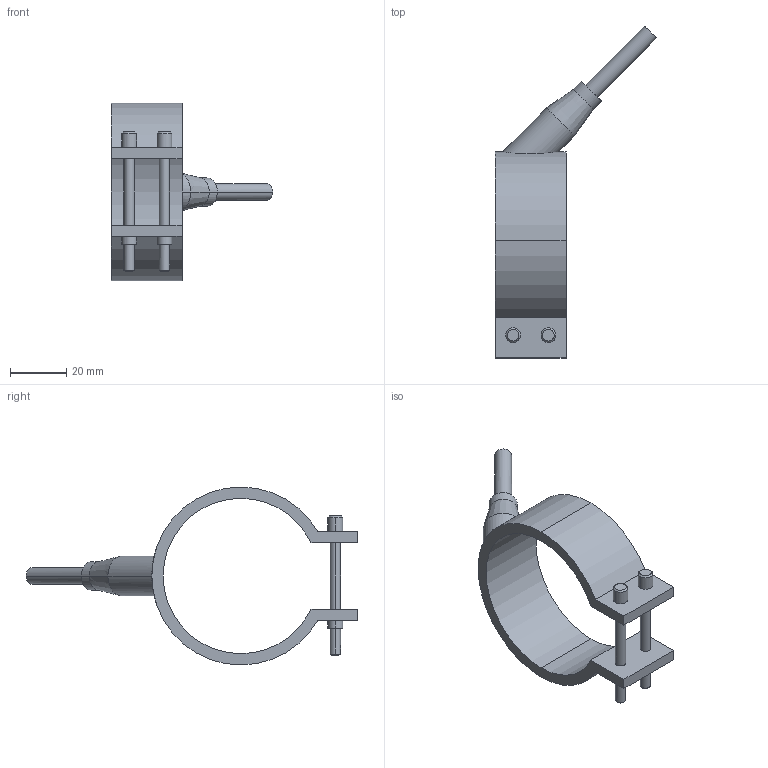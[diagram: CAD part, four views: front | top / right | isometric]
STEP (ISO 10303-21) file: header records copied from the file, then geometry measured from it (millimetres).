
FILE_DESCRIPTION(('CATIA V5 STEP Exchange'),'2;1');
FILE_NAME('C:\Users\Utente\Desktop\IO LAVORO\3D X SITO CF\X SITO\PLASTICA\RF1\29055025.stp','2021-03-29T13:13:10+00:00',('none'),('none'),'CATIA Version 5 Release 20 GA (IN-10)','CATIA V5 STEP AP203','none');
FILE_SCHEMA(('CONFIG_CONTROL_DESIGN'));
Length unit declared in the file: millimetre
Products named in the file (1): 29055025
Bounding box: 57.05 x 117.55 x 63 mm (x, y, z)
Volume: 24605.4 mm3; surface area: 13717.7 mm2
Topology: 1 solids, 1 shells, 54 faces, 124 edges, 80 vertices
Faces by surface type: cylinder 28, plane 16, cone 10
Entity records: 1705 total; most frequent: CARTESIAN_POINT 464, ORIENTED_EDGE 248, DIRECTION 215, EDGE_CURVE 124, AXIS2_PLACEMENT_3D 108, VERTEX_POINT 80, EDGE_LOOP 66, VECTOR 56
